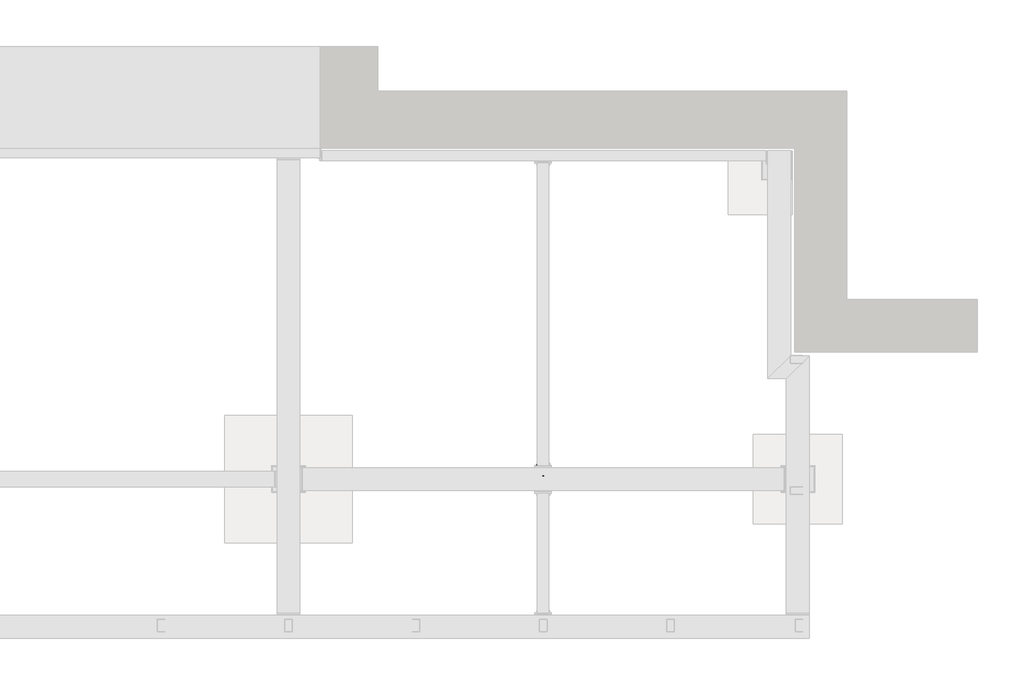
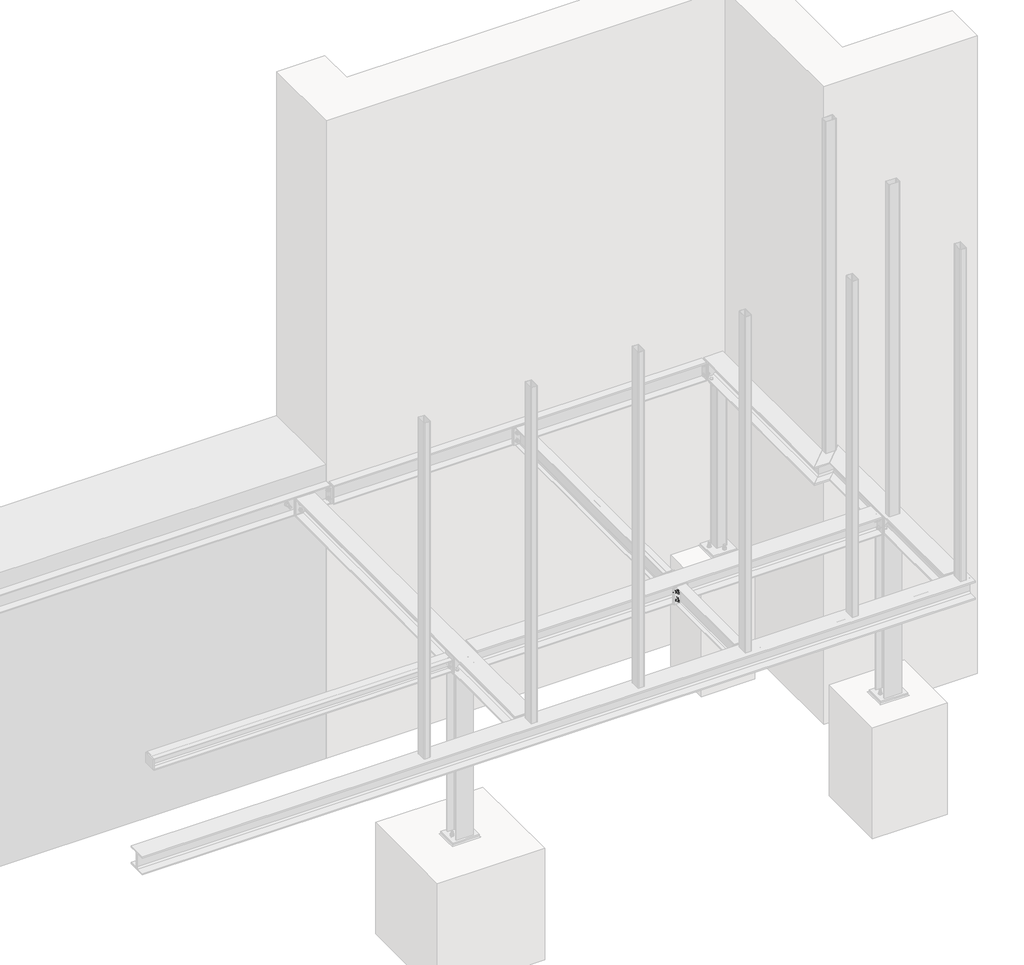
# One storey, part 28 of 31: 3 assemblies.
"""IFC4 building model written with IfcOpenShell, lengths in millimetres."""

from ifc_helpers import new_model, si_unit, point, frame, frame_2d, origin, place, context, project, spatial, polyline, circle_curve, ellipse_curve, trimmed, segment, composite_curve, outline, extrude, element, save
from ifc_brep_helpers import plane_surface, revolved_surface, advanced_brep

model = new_model("IFC4")

# Units and contexts
model_context = context("Model", 3, world=origin())
ifc_project = project(units=[si_unit("LENGTHUNIT", "METRE", prefix="MILLI")], contexts=[model_context])

# Site, building, storey
site = spatial("IfcSite", under=ifc_project)
building = spatial("IfcBuilding", under=site)
storey = spatial("IfcBuildingStorey", under=building, Name="Základy", Elevation=-1200.0)

# Assemblies
placement = place(None, origin())
element("IfcElementAssembly", 1, at=placement, inside=storey, context=model_context, shape_type="AdvancedBrep", body=[
    advanced_brep(
    [(15960.0, 2050.0, -160.0), (16140.0, 2230.0, -160.0), (15995.0, 2230.0, -160.0), (15815.0, 2050.0, -160.0), (15960.0, 2050.0, -174.0), (15815.0, 2050.0, -174.0), (16030.75, 2120.75, -174.0), (15885.75, 2120.75, -174.0), (16045.75, 2135.75, -189.0), (15900.75, 2135.75, -189.0), (16045.75, 2135.75, -311.0), (15900.75, 2135.75, -311.0), (16030.75, 2120.75, -326.0), (15885.75, 2120.75, -326.0), (15960.0, 2050.0, -326.0), (15815.0, 2050.0, -326.0), (15960.0, 2050.0, -340.0), (15815.0, 2050.0, -340.0), (16140.0, 2230.0, -340.0), (15995.0, 2230.0, -340.0), (16140.0, 2230.0, -326.0), (15995.0, 2230.0, -326.0), (16069.25, 2159.25, -326.0), (15924.25, 2159.25, -326.0), (16054.25, 2144.25, -311.0), (15909.25, 2144.25, -311.0), (16054.25, 2144.25, -189.0), (15909.25, 2144.25, -189.0), (16069.25, 2159.25, -174.0), (15924.25, 2159.25, -174.0), (16140.0, 2230.0, -174.0), (15995.0, 2230.0, -174.0)],
    [
        (0, 1),
        (1, 2),
        (2, 3),
        (3, 0),
        (4, 0),
        (3, 5),
        (5, 4),
        (6, 4),
        (5, 7),
        (7, 6),
        (8, 6, ellipse_curve(frame((16030.75, 2120.75, -189.0), z_axis=(0.7071067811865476, -0.7071067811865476, 0.0), x_axis=(-0.7071067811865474, -0.7071067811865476, 0.0)), 21.2132034, 15.0)),
        (7, 9, ellipse_curve(frame((15885.75, 2120.75, -189.0), z_axis=(-0.7071067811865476, 0.7071067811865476, 0.0), x_axis=(-0.7071067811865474, -0.7071067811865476, 0.0)), 21.2132034, 15.0)),
        (9, 8),
        (10, 8),
        (9, 11),
        (11, 10),
        (12, 10, ellipse_curve(frame((16030.75, 2120.75, -311.0), z_axis=(0.7071067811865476, -0.7071067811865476, 0.0), x_axis=(-0.7071067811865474, -0.7071067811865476, 0.0)), 21.2132034, 15.0)),
        (11, 13, ellipse_curve(frame((15885.75, 2120.75, -311.0), z_axis=(-0.7071067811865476, 0.7071067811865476, 0.0), x_axis=(-0.7071067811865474, -0.7071067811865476, 0.0)), 21.2132034, 15.0)),
        (13, 12),
        (14, 12),
        (13, 15),
        (15, 14),
        (16, 14),
        (15, 17),
        (17, 16),
        (18, 16),
        (17, 19),
        (19, 18),
        (20, 18),
        (19, 21),
        (21, 20),
        (22, 20),
        (21, 23),
        (23, 22),
        (24, 22, ellipse_curve(frame((16069.25, 2159.25, -311.0), z_axis=(0.7071067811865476, -0.7071067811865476, 0.0), x_axis=(-0.7071067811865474, -0.7071067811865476, 0.0)), 21.2132034, 15.0)),
        (23, 25, ellipse_curve(frame((15924.25, 2159.25, -311.0), z_axis=(-0.7071067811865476, 0.7071067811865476, 0.0), x_axis=(-0.7071067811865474, -0.7071067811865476, 0.0)), 21.2132034, 15.0)),
        (25, 24),
        (26, 24),
        (25, 27),
        (27, 26),
        (28, 26, ellipse_curve(frame((16069.25, 2159.25, -189.0), z_axis=(0.7071067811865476, -0.7071067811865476, 0.0), x_axis=(-0.7071067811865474, -0.7071067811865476, 0.0)), 21.2132034, 15.0)),
        (27, 29, ellipse_curve(frame((15924.25, 2159.25, -189.0), z_axis=(-0.7071067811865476, 0.7071067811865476, 0.0), x_axis=(-0.7071067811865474, -0.7071067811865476, 0.0)), 21.2132034, 15.0)),
        (29, 28),
        (30, 28),
        (29, 31),
        (31, 30),
        (1, 30),
        (31, 2),
    ],
    [
        plane_surface(frame((16150.0, 2230.0, -160.0), z_axis=(0.0, 0.0, 1.0), x_axis=(-1.0, 0.0, 0.0))),
        plane_surface(frame((16150.0, 2050.0, -160.0), z_axis=(0.0, -1.0, 0.0), x_axis=(-1.0, 0.0, 0.0))),
        plane_surface(frame((16150.0, 2050.0, -174.0), z_axis=(0.0, 0.0, -1.0), x_axis=(-1.0, 0.0, 0.0))),
        revolved_surface(polyline([(15870.750000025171, 2105.75, -189.0), (16045.75, 2105.75, -189.0)]), (15805.0, 2120.75, -189.0), (-1.0, 0.0, 0.0)),
        plane_surface(frame((16150.0, 2135.75, -189.0), z_axis=(0.0, -1.0, 0.0), x_axis=(-1.0, 0.0, 0.0))),
        revolved_surface(polyline([(15870.750000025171, 2105.75, -311.0), (16045.75, 2105.75, -311.0)]), (15805.0, 2120.75, -311.0), (-1.0, 0.0, 0.0)),
        plane_surface(frame((16150.0, 2120.75, -326.0), z_axis=(0.0, 0.0, 1.0), x_axis=(-1.0, 0.0, 0.0))),
        plane_surface(frame((16150.0, 2050.0, -326.0), z_axis=(0.0, -1.0, 0.0), x_axis=(-1.0, 0.0, 0.0))),
        plane_surface(frame((16150.0, 2050.0, -340.0), z_axis=(0.0, 0.0, -1.0), x_axis=(-1.0, 0.0, 0.0))),
        plane_surface(frame((16150.0, 2230.0, -340.0), z_axis=(0.0, 1.0, 0.0), x_axis=(-1.0, 0.0, 0.0))),
        plane_surface(frame((16150.0, 2230.0, -326.0), z_axis=(0.0, 0.0, 1.0), x_axis=(-1.0, 0.0, 0.0))),
        revolved_surface(polyline([(15909.25, 2144.25, -311.0), (16084.249999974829, 2144.25, -311.0)]), (15805.0, 2159.25, -311.0), (-1.0, 0.0, 0.0)),
        plane_surface(frame((16150.0, 2144.25, -311.0), z_axis=(0.0, 1.0, 0.0), x_axis=(-1.0, 0.0, 0.0))),
        revolved_surface(polyline([(15909.25, 2144.25, -189.0), (16084.249999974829, 2144.25, -189.0)]), (15805.0, 2159.25, -189.0), (-1.0, 0.0, 0.0)),
        plane_surface(frame((16150.0, 2159.25, -174.0), z_axis=(0.0, 0.0, -1.0), x_axis=(-1.0, 0.0, 0.0))),
        plane_surface(frame((16150.0, 2230.0, -174.0), z_axis=(0.0, 1.0, 0.0), x_axis=(-1.0, 0.0, 0.0))),
        plane_surface(frame((16150.0, 2240.0, -160.0), z_axis=(0.7071067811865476, -0.7071067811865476, 0.0), x_axis=(0.7071067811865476, 0.7071067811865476, 0.0))),
        plane_surface(frame((15805.0, 2040.0, -160.0), z_axis=(-0.7071067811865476, 0.7071067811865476, 0.0), x_axis=(0.7071067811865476, 0.7071067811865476, 0.0))),
    ],
    [
        (0, [[1, 2, 3, 4]]),
        (1, [[5, -4, 6, 7]]),
        (2, [[8, -7, 9, 10]]),
        (3, [[11, -10, 12, 13]]),
        (4, [[14, -13, 15, 16]]),
        (5, [[17, -16, 18, 19]]),
        (6, [[20, -19, 21, 22]]),
        (7, [[23, -22, 24, 25]]),
        (8, [[26, -25, 27, 28]]),
        (9, [[29, -28, 30, 31]]),
        (10, [[32, -31, 33, 34]]),
        (11, [[35, -34, 36, 37]]),
        (12, [[38, -37, 39, 40]]),
        (13, [[41, -40, 42, 43]]),
        (14, [[44, -43, 45, 46]]),
        (15, [[47, -46, 48, -2]]),
        (16, [[-1, -5, -8, -11, -14, -17, -20, -23, -26, -29, -32, -35, -38, -41, -44, -47]]),
        (17, [[-3, -48, -45, -42, -39, -36, -33, -30, -27, -24, -21, -18, -15, -12, -9, -6]]),
    ],
),
])
element("IfcElementAssembly", 2, at=placement, inside=storey, context=model_context, shape_type="SweptSolid", body=[
    extrude(outline(composite_curve([segment(polyline([(1170.0, -160.0), (1350.0, -160.0), (1350.0, -174.0), (1279.25, -174.0)]), True, "CONTINUOUS"), segment(trimmed(circle_curve(frame_2d((1279.25, -189.0)), 15.0), [point((1279.25, -174.0))], [point((1264.25, -189.0))], True, "CARTESIAN"), True, "CONTINUOUS"), segment(polyline([(1264.25, -189.0), (1264.25, -311.0)]), True, "CONTINUOUS"), segment(trimmed(circle_curve(frame_2d((1279.25, -311.0)), 15.0), [point((1264.25, -311.0))], [point((1279.25, -326.0))], True, "CARTESIAN"), True, "CONTINUOUS"), segment(polyline([(1279.25, -326.0), (1350.0, -326.0), (1350.0, -340.0), (1170.0, -340.0), (1170.0, -326.0), (1240.75, -326.0)]), True, "CONTINUOUS"), segment(trimmed(circle_curve(frame_2d((1240.75, -311.0)), 15.0), [point((1240.75, -326.0))], [point((1255.75, -311.0))], True, "CARTESIAN"), True, "CONTINUOUS"), segment(polyline([(1255.75, -311.0), (1255.75, -189.0)]), True, "CONTINUOUS"), segment(trimmed(circle_curve(frame_2d((1240.75, -189.0)), 15.0), [point((1255.75, -189.0))], [point((1240.75, -174.0))], True, "CARTESIAN"), True, "CONTINUOUS"), segment(polyline([(1240.75, -174.0), (1170.0, -174.0), (1170.0, -160.0)]), True, "CONTINUOUS")], self_intersect=False)), frame((12160.0, 0.0, 0.0), z_axis=(1.0, 0.0, 0.0), x_axis=(0.0, 1.0, 0.0)), (0.0, 0.0, 1.0), 3780.0),
    extrude(outline(polyline([(12150.0, 1170.0), (12150.0, 1350.0), (12160.0, 1350.0), (12160.0, 1170.0), (12150.0, 1170.0)])), frame((0.0, 0.0, -326.0), z_axis=(0.0, 0.0, 1.0), x_axis=(1.0, 0.0, 0.0)), (0.0, 0.0, 1.0), 152.0),
    extrude(outline(polyline([(15940.0, 1170.0), (15940.0, 1350.0), (15950.0, 1350.0), (15950.0, 1170.0), (15940.0, 1170.0)])), frame((0.0, 0.0, -326.0), z_axis=(0.0, 0.0, 1.0), x_axis=(1.0, 0.0, 0.0)), (0.0, 0.0, 1.0), 152.0),
    extrude(outline(composite_curve([segment(polyline([(1170.0, -174.0), (1235.75, -174.0)]), True, "CONTINUOUS"), segment(trimmed(circle_curve(frame_2d((1255.75, -174.0)), 20.0), [point((1235.75, -174.0))], [point((1255.75, -194.0))], True, "CARTESIAN"), True, "CONTINUOUS"), segment(polyline([(1255.75, -194.0), (1255.75, -306.0)]), True, "CONTINUOUS"), segment(trimmed(circle_curve(frame_2d((1255.75, -326.0)), 20.0), [point((1255.75, -306.0))], [point((1235.75, -326.0))], True, "CARTESIAN"), True, "CONTINUOUS"), segment(polyline([(1235.75, -326.0), (1170.0, -326.0), (1170.0, -174.0)]), True, "CONTINUOUS")], self_intersect=False)), frame((14046.0, 0.0, 0.0), z_axis=(1.0, 0.0, 0.0), x_axis=(0.0, 1.0, 0.0)), (0.0, 0.0, 1.0), 8.0),
    extrude(outline(polyline([(13985.0, 1170.0), (14115.0, 1170.0), (14115.0, 1160.0), (13985.0, 1160.0), (13985.0, 1170.0)])), frame((0.0, 0.0, -332.0), z_axis=(0.0, 0.0, 1.0), x_axis=(1.0, 0.0, 0.0)), (0.0, 0.0, 1.0), 164.0),
    extrude(outline(composite_curve([segment(polyline([(1350.0, -174.0), (1350.0, -326.0), (1284.25, -326.0)]), True, "CONTINUOUS"), segment(trimmed(circle_curve(frame_2d((1264.25, -326.0)), 20.0), [point((1284.25, -326.0))], [point((1264.25, -306.0))], True, "CARTESIAN"), True, "CONTINUOUS"), segment(polyline([(1264.25, -306.0), (1264.25, -194.0)]), True, "CONTINUOUS"), segment(trimmed(circle_curve(frame_2d((1264.25, -174.0)), 20.0), [point((1264.25, -194.0))], [point((1284.25, -174.0))], True, "CARTESIAN"), True, "CONTINUOUS"), segment(polyline([(1284.25, -174.0), (1350.0, -174.0)]), True, "CONTINUOUS")], self_intersect=False)), frame((14046.0, 0.0, 0.0), z_axis=(1.0, 0.0, 0.0), x_axis=(0.0, 1.0, 0.0)), (0.0, 0.0, 1.0), 8.0),
    extrude(outline(polyline([(13985.0, 1360.0), (14115.0, 1360.0), (14115.0, 1350.0), (13985.0, 1350.0), (13985.0, 1360.0)])), frame((0.0, 0.0, -332.0), z_axis=(0.0, 0.0, 1.0), x_axis=(1.0, 0.0, 0.0)), (0.0, 0.0, 1.0), 164.0),
    extrude(outline(composite_curve([segment(trimmed(circle_curve(frame_2d((-290.0, 14015.0)), 9.0), [point((-290.0, 14024.0))], [point((-290.0, 14006.0))], False, "CARTESIAN"), True, "CONTINUOUS"), segment(trimmed(circle_curve(frame_2d((-290.0, 14015.0)), 9.0), [point((-290.0, 14006.0))], [point((-290.0, 14024.0))], False, "CARTESIAN"), True, "CONTINUOUS")], self_intersect=False)), frame((0.0, 1159.9, 0.0), z_axis=(0.0, 1.0, 0.0), x_axis=(0.0, 0.0, 1.0)), (0.0, 0.0, 1.0), 10.0),
    extrude(outline(polyline([(-290.0, 14028.8564065), (-278.0, 14021.9282032), (-278.0, 14008.0717968), (-290.0, 14001.1435935), (-302.0, 14008.0717968), (-302.0, 14021.9282032), (-290.0, 14028.8564065)])), frame((0.0, 1173.0, 0.0), z_axis=(0.0, 1.0, 0.0), x_axis=(0.0, 0.0, 1.0)), (0.0, 0.0, 1.0), 10.0),
    extrude(outline(composite_curve([segment(trimmed(circle_curve(frame_2d((-290.0, 14015.0)), 8.0), [point((-290.0, 14023.0))], [point((-290.0, 14007.0))], False, "CARTESIAN"), True, "CONTINUOUS"), segment(trimmed(circle_curve(frame_2d((-290.0, 14015.0)), 8.0), [point((-290.0, 14007.0))], [point((-290.0, 14023.0))], False, "CARTESIAN"), True, "CONTINUOUS")], self_intersect=False)), frame((0.0, 1123.0, 0.0), z_axis=(0.0, 1.0, 0.0), x_axis=(0.0, 0.0, 1.0)), (0.0, 0.0, 1.0), 50.0),
    extrude(outline(composite_curve([segment(trimmed(circle_curve(frame_2d((-290.0, 14015.0)), 15.0), [point((-290.0, 14030.0))], [point((-290.0, 14000.0))], False, "CARTESIAN"), True, "CONTINUOUS"), segment(trimmed(circle_curve(frame_2d((-290.0, 14015.0)), 15.0), [point((-290.0, 14000.0))], [point((-290.0, 14030.0))], False, "CARTESIAN"), True, "CONTINUOUS")], self_intersect=False)), frame((0.0, 1170.0, 0.0), z_axis=(0.0, 1.0, 0.0), x_axis=(0.0, 0.0, 1.0)), (0.0, 0.0, 1.0), 3.0),
    extrude(outline(composite_curve([segment(trimmed(circle_curve(frame_2d((-290.0, 14015.0)), 15.0), [point((-290.0, 14030.0))], [point((-290.0, 14000.0))], False, "CARTESIAN"), True, "CONTINUOUS"), segment(trimmed(circle_curve(frame_2d((-290.0, 14015.0)), 15.0), [point((-290.0, 14000.0))], [point((-290.0, 14030.0))], False, "CARTESIAN"), True, "CONTINUOUS")], self_intersect=False)), frame((0.0, 1147.0, 0.0), z_axis=(0.0, 1.0, 0.0), x_axis=(0.0, 0.0, 1.0)), (0.0, 0.0, 1.0), 3.0),
    extrude(outline(polyline([(-290.0, 14030.4441197), (-276.625, 14022.7220599), (-276.625, 14007.2779401), (-290.0, 13999.5558803), (-303.375, 14007.2779401), (-303.375, 14022.7220599), (-290.0, 14030.4441197)])), frame((0.0, 1134.0, 0.0), z_axis=(0.0, 1.0, 0.0), x_axis=(0.0, 0.0, 1.0)), (0.0, 0.0, 1.0), 13.0),
    extrude(outline(composite_curve([segment(trimmed(circle_curve(frame_2d((-290.0, 14015.0)), 9.0), [point((-290.0, 14024.0))], [point((-290.0, 14006.0))], False, "CARTESIAN"), True, "CONTINUOUS"), segment(trimmed(circle_curve(frame_2d((-290.0, 14015.0)), 9.0), [point((-290.0, 14006.0))], [point((-290.0, 14024.0))], False, "CARTESIAN"), True, "CONTINUOUS")], self_intersect=False)), frame((0.0, 1150.0, 0.0), z_axis=(0.0, 1.0, 0.0), x_axis=(0.0, 0.0, 1.0)), (0.0, 0.0, 1.0), 10.1),
    extrude(outline(composite_curve([segment(trimmed(circle_curve(frame_2d((-290.0, 14085.0)), 9.0), [point((-290.0, 14094.0))], [point((-290.0, 14076.0))], False, "CARTESIAN"), True, "CONTINUOUS"), segment(trimmed(circle_curve(frame_2d((-290.0, 14085.0)), 9.0), [point((-290.0, 14076.0))], [point((-290.0, 14094.0))], False, "CARTESIAN"), True, "CONTINUOUS")], self_intersect=False)), frame((0.0, 1159.9, 0.0), z_axis=(0.0, 1.0, 0.0), x_axis=(0.0, 0.0, 1.0)), (0.0, 0.0, 1.0), 10.0),
    extrude(outline(polyline([(-290.0, 14098.8564065), (-278.0, 14091.9282032), (-278.0, 14078.0717968), (-290.0, 14071.1435935), (-302.0, 14078.0717968), (-302.0, 14091.9282032), (-290.0, 14098.8564065)])), frame((0.0, 1173.0, 0.0), z_axis=(0.0, 1.0, 0.0), x_axis=(0.0, 0.0, 1.0)), (0.0, 0.0, 1.0), 10.0),
    extrude(outline(composite_curve([segment(trimmed(circle_curve(frame_2d((-290.0, 14085.0)), 8.0), [point((-290.0, 14093.0))], [point((-290.0, 14077.0))], False, "CARTESIAN"), True, "CONTINUOUS"), segment(trimmed(circle_curve(frame_2d((-290.0, 14085.0)), 8.0), [point((-290.0, 14077.0))], [point((-290.0, 14093.0))], False, "CARTESIAN"), True, "CONTINUOUS")], self_intersect=False)), frame((0.0, 1123.0, 0.0), z_axis=(0.0, 1.0, 0.0), x_axis=(0.0, 0.0, 1.0)), (0.0, 0.0, 1.0), 50.0),
    extrude(outline(composite_curve([segment(trimmed(circle_curve(frame_2d((-290.0, 14085.0)), 15.0), [point((-290.0, 14100.0))], [point((-290.0, 14070.0))], False, "CARTESIAN"), True, "CONTINUOUS"), segment(trimmed(circle_curve(frame_2d((-290.0, 14085.0)), 15.0), [point((-290.0, 14070.0))], [point((-290.0, 14100.0))], False, "CARTESIAN"), True, "CONTINUOUS")], self_intersect=False)), frame((0.0, 1170.0, 0.0), z_axis=(0.0, 1.0, 0.0), x_axis=(0.0, 0.0, 1.0)), (0.0, 0.0, 1.0), 3.0),
    extrude(outline(composite_curve([segment(trimmed(circle_curve(frame_2d((-290.0, 14085.0)), 15.0), [point((-290.0, 14100.0))], [point((-290.0, 14070.0))], False, "CARTESIAN"), True, "CONTINUOUS"), segment(trimmed(circle_curve(frame_2d((-290.0, 14085.0)), 15.0), [point((-290.0, 14070.0))], [point((-290.0, 14100.0))], False, "CARTESIAN"), True, "CONTINUOUS")], self_intersect=False)), frame((0.0, 1147.0, 0.0), z_axis=(0.0, 1.0, 0.0), x_axis=(0.0, 0.0, 1.0)), (0.0, 0.0, 1.0), 3.0),
    extrude(outline(polyline([(-290.0, 14100.4441197), (-276.625, 14092.7220599), (-276.625, 14077.2779401), (-290.0, 14069.5558803), (-303.375, 14077.2779401), (-303.375, 14092.7220599), (-290.0, 14100.4441197)])), frame((0.0, 1134.0, 0.0), z_axis=(0.0, 1.0, 0.0), x_axis=(0.0, 0.0, 1.0)), (0.0, 0.0, 1.0), 13.0),
    extrude(outline(composite_curve([segment(trimmed(circle_curve(frame_2d((-290.0, 14085.0)), 9.0), [point((-290.0, 14094.0))], [point((-290.0, 14076.0))], False, "CARTESIAN"), True, "CONTINUOUS"), segment(trimmed(circle_curve(frame_2d((-290.0, 14085.0)), 9.0), [point((-290.0, 14076.0))], [point((-290.0, 14094.0))], False, "CARTESIAN"), True, "CONTINUOUS")], self_intersect=False)), frame((0.0, 1150.0, 0.0), z_axis=(0.0, 1.0, 0.0), x_axis=(0.0, 0.0, 1.0)), (0.0, 0.0, 1.0), 10.1),
    extrude(outline(composite_curve([segment(trimmed(circle_curve(frame_2d((-210.0, 14015.0)), 9.0), [point((-210.0, 14024.0))], [point((-210.0, 14006.0))], False, "CARTESIAN"), True, "CONTINUOUS"), segment(trimmed(circle_curve(frame_2d((-210.0, 14015.0)), 9.0), [point((-210.0, 14006.0))], [point((-210.0, 14024.0))], False, "CARTESIAN"), True, "CONTINUOUS")], self_intersect=False)), frame((0.0, 1159.9, 0.0), z_axis=(0.0, 1.0, 0.0), x_axis=(0.0, 0.0, 1.0)), (0.0, 0.0, 1.0), 10.0),
    extrude(outline(polyline([(-210.0, 14028.8564065), (-198.0, 14021.9282032), (-198.0, 14008.0717968), (-210.0, 14001.1435935), (-222.0, 14008.0717968), (-222.0, 14021.9282032), (-210.0, 14028.8564065)])), frame((0.0, 1173.0, 0.0), z_axis=(0.0, 1.0, 0.0), x_axis=(0.0, 0.0, 1.0)), (0.0, 0.0, 1.0), 10.0),
    extrude(outline(composite_curve([segment(trimmed(circle_curve(frame_2d((-210.0, 14015.0)), 8.0), [point((-210.0, 14023.0))], [point((-210.0, 14007.0))], False, "CARTESIAN"), True, "CONTINUOUS"), segment(trimmed(circle_curve(frame_2d((-210.0, 14015.0)), 8.0), [point((-210.0, 14007.0))], [point((-210.0, 14023.0))], False, "CARTESIAN"), True, "CONTINUOUS")], self_intersect=False)), frame((0.0, 1123.0, 0.0), z_axis=(0.0, 1.0, 0.0), x_axis=(0.0, 0.0, 1.0)), (0.0, 0.0, 1.0), 50.0),
    extrude(outline(composite_curve([segment(trimmed(circle_curve(frame_2d((-210.0, 14015.0)), 15.0), [point((-210.0, 14030.0))], [point((-210.0, 14000.0))], False, "CARTESIAN"), True, "CONTINUOUS"), segment(trimmed(circle_curve(frame_2d((-210.0, 14015.0)), 15.0), [point((-210.0, 14000.0))], [point((-210.0, 14030.0))], False, "CARTESIAN"), True, "CONTINUOUS")], self_intersect=False)), frame((0.0, 1170.0, 0.0), z_axis=(0.0, 1.0, 0.0), x_axis=(0.0, 0.0, 1.0)), (0.0, 0.0, 1.0), 3.0),
    extrude(outline(composite_curve([segment(trimmed(circle_curve(frame_2d((-210.0, 14015.0)), 15.0), [point((-210.0, 14030.0))], [point((-210.0, 14000.0))], False, "CARTESIAN"), True, "CONTINUOUS"), segment(trimmed(circle_curve(frame_2d((-210.0, 14015.0)), 15.0), [point((-210.0, 14000.0))], [point((-210.0, 14030.0))], False, "CARTESIAN"), True, "CONTINUOUS")], self_intersect=False)), frame((0.0, 1147.0, 0.0), z_axis=(0.0, 1.0, 0.0), x_axis=(0.0, 0.0, 1.0)), (0.0, 0.0, 1.0), 3.0),
    extrude(outline(polyline([(-210.0, 14030.4441197), (-196.625, 14022.7220599), (-196.625, 14007.2779401), (-210.0, 13999.5558803), (-223.375, 14007.2779401), (-223.375, 14022.7220599), (-210.0, 14030.4441197)])), frame((0.0, 1134.0, 0.0), z_axis=(0.0, 1.0, 0.0), x_axis=(0.0, 0.0, 1.0)), (0.0, 0.0, 1.0), 13.0),
    extrude(outline(composite_curve([segment(trimmed(circle_curve(frame_2d((-210.0, 14015.0)), 9.0), [point((-210.0, 14024.0))], [point((-210.0, 14006.0))], False, "CARTESIAN"), True, "CONTINUOUS"), segment(trimmed(circle_curve(frame_2d((-210.0, 14015.0)), 9.0), [point((-210.0, 14006.0))], [point((-210.0, 14024.0))], False, "CARTESIAN"), True, "CONTINUOUS")], self_intersect=False)), frame((0.0, 1150.0, 0.0), z_axis=(0.0, 1.0, 0.0), x_axis=(0.0, 0.0, 1.0)), (0.0, 0.0, 1.0), 10.1),
    extrude(outline(composite_curve([segment(trimmed(circle_curve(frame_2d((-210.0, 14085.0)), 9.0), [point((-210.0, 14094.0))], [point((-210.0, 14076.0))], False, "CARTESIAN"), True, "CONTINUOUS"), segment(trimmed(circle_curve(frame_2d((-210.0, 14085.0)), 9.0), [point((-210.0, 14076.0))], [point((-210.0, 14094.0))], False, "CARTESIAN"), True, "CONTINUOUS")], self_intersect=False)), frame((0.0, 1159.9, 0.0), z_axis=(0.0, 1.0, 0.0), x_axis=(0.0, 0.0, 1.0)), (0.0, 0.0, 1.0), 10.0),
    extrude(outline(polyline([(-210.0, 14098.8564065), (-198.0, 14091.9282032), (-198.0, 14078.0717968), (-210.0, 14071.1435935), (-222.0, 14078.0717968), (-222.0, 14091.9282032), (-210.0, 14098.8564065)])), frame((0.0, 1173.0, 0.0), z_axis=(0.0, 1.0, 0.0), x_axis=(0.0, 0.0, 1.0)), (0.0, 0.0, 1.0), 10.0),
    extrude(outline(composite_curve([segment(trimmed(circle_curve(frame_2d((-210.0, 14085.0)), 8.0), [point((-210.0, 14093.0))], [point((-210.0, 14077.0))], False, "CARTESIAN"), True, "CONTINUOUS"), segment(trimmed(circle_curve(frame_2d((-210.0, 14085.0)), 8.0), [point((-210.0, 14077.0))], [point((-210.0, 14093.0))], False, "CARTESIAN"), True, "CONTINUOUS")], self_intersect=False)), frame((0.0, 1123.0, 0.0), z_axis=(0.0, 1.0, 0.0), x_axis=(0.0, 0.0, 1.0)), (0.0, 0.0, 1.0), 50.0),
    extrude(outline(composite_curve([segment(trimmed(circle_curve(frame_2d((-210.0, 14085.0)), 15.0), [point((-210.0, 14100.0))], [point((-210.0, 14070.0))], False, "CARTESIAN"), True, "CONTINUOUS"), segment(trimmed(circle_curve(frame_2d((-210.0, 14085.0)), 15.0), [point((-210.0, 14070.0))], [point((-210.0, 14100.0))], False, "CARTESIAN"), True, "CONTINUOUS")], self_intersect=False)), frame((0.0, 1170.0, 0.0), z_axis=(0.0, 1.0, 0.0), x_axis=(0.0, 0.0, 1.0)), (0.0, 0.0, 1.0), 3.0),
    extrude(outline(composite_curve([segment(trimmed(circle_curve(frame_2d((-210.0, 14085.0)), 15.0), [point((-210.0, 14100.0))], [point((-210.0, 14070.0))], False, "CARTESIAN"), True, "CONTINUOUS"), segment(trimmed(circle_curve(frame_2d((-210.0, 14085.0)), 15.0), [point((-210.0, 14070.0))], [point((-210.0, 14100.0))], False, "CARTESIAN"), True, "CONTINUOUS")], self_intersect=False)), frame((0.0, 1147.0, 0.0), z_axis=(0.0, 1.0, 0.0), x_axis=(0.0, 0.0, 1.0)), (0.0, 0.0, 1.0), 3.0),
    extrude(outline(polyline([(-210.0, 14100.4441197), (-196.625, 14092.7220599), (-196.625, 14077.2779401), (-210.0, 14069.5558803), (-223.375, 14077.2779401), (-223.375, 14092.7220599), (-210.0, 14100.4441197)])), frame((0.0, 1134.0, 0.0), z_axis=(0.0, 1.0, 0.0), x_axis=(0.0, 0.0, 1.0)), (0.0, 0.0, 1.0), 13.0),
    extrude(outline(composite_curve([segment(trimmed(circle_curve(frame_2d((-210.0, 14085.0)), 9.0), [point((-210.0, 14094.0))], [point((-210.0, 14076.0))], False, "CARTESIAN"), True, "CONTINUOUS"), segment(trimmed(circle_curve(frame_2d((-210.0, 14085.0)), 9.0), [point((-210.0, 14076.0))], [point((-210.0, 14094.0))], False, "CARTESIAN"), True, "CONTINUOUS")], self_intersect=False)), frame((0.0, 1150.0, 0.0), z_axis=(0.0, 1.0, 0.0), x_axis=(0.0, 0.0, 1.0)), (0.0, 0.0, 1.0), 10.1),
    extrude(outline(composite_curve([segment(trimmed(circle_curve(frame_2d((-290.0, 14015.0)), 9.0), [point((-290.0, 14024.0))], [point((-290.0, 14006.0))], False, "CARTESIAN"), True, "CONTINUOUS"), segment(trimmed(circle_curve(frame_2d((-290.0, 14015.0)), 9.0), [point((-290.0, 14006.0))], [point((-290.0, 14024.0))], False, "CARTESIAN"), True, "CONTINUOUS")], self_intersect=False)), frame((0.0, 1350.1, 0.0), z_axis=(0.0, 1.0, 0.0), x_axis=(0.0, 0.0, 1.0)), (0.0, 0.0, 1.0), 10.0),
    extrude(outline(polyline([(-290.0, 14028.8564065), (-278.0, 14021.9282032), (-278.0, 14008.0717968), (-290.0, 14001.1435935), (-302.0, 14008.0717968), (-302.0, 14021.9282032), (-290.0, 14028.8564065)])), frame((0.0, 1337.0, 0.0), z_axis=(0.0, 1.0, 0.0), x_axis=(0.0, 0.0, 1.0)), (0.0, 0.0, 1.0), 10.0),
    extrude(outline(composite_curve([segment(trimmed(circle_curve(frame_2d((-290.0, 14015.0)), 8.0), [point((-290.0, 14023.0))], [point((-290.0, 14007.0))], False, "CARTESIAN"), True, "CONTINUOUS"), segment(trimmed(circle_curve(frame_2d((-290.0, 14015.0)), 8.0), [point((-290.0, 14007.0))], [point((-290.0, 14023.0))], False, "CARTESIAN"), True, "CONTINUOUS")], self_intersect=False)), frame((0.0, 1347.0, 0.0), z_axis=(0.0, 1.0, 0.0), x_axis=(0.0, 0.0, 1.0)), (0.0, 0.0, 1.0), 50.0),
    extrude(outline(composite_curve([segment(trimmed(circle_curve(frame_2d((-290.0, 14015.0)), 15.0), [point((-290.0, 14030.0))], [point((-290.0, 14000.0))], False, "CARTESIAN"), True, "CONTINUOUS"), segment(trimmed(circle_curve(frame_2d((-290.0, 14015.0)), 15.0), [point((-290.0, 14000.0))], [point((-290.0, 14030.0))], False, "CARTESIAN"), True, "CONTINUOUS")], self_intersect=False)), frame((0.0, 1347.0, 0.0), z_axis=(0.0, 1.0, 0.0), x_axis=(0.0, 0.0, 1.0)), (0.0, 0.0, 1.0), 3.0),
    extrude(outline(composite_curve([segment(trimmed(circle_curve(frame_2d((-290.0, 14015.0)), 15.0), [point((-290.0, 14030.0))], [point((-290.0, 14000.0))], False, "CARTESIAN"), True, "CONTINUOUS"), segment(trimmed(circle_curve(frame_2d((-290.0, 14015.0)), 15.0), [point((-290.0, 14000.0))], [point((-290.0, 14030.0))], False, "CARTESIAN"), True, "CONTINUOUS")], self_intersect=False)), frame((0.0, 1370.0, 0.0), z_axis=(0.0, 1.0, 0.0), x_axis=(0.0, 0.0, 1.0)), (0.0, 0.0, 1.0), 3.0),
    extrude(outline(polyline([(-290.0, 14030.4441197), (-276.625, 14022.7220599), (-276.625, 14007.2779401), (-290.0, 13999.5558803), (-303.375, 14007.2779401), (-303.375, 14022.7220599), (-290.0, 14030.4441197)])), frame((0.0, 1373.0, 0.0), z_axis=(0.0, 1.0, 0.0), x_axis=(0.0, 0.0, 1.0)), (0.0, 0.0, 1.0), 13.0),
    extrude(outline(composite_curve([segment(trimmed(circle_curve(frame_2d((-290.0, 14015.0)), 9.0), [point((-290.0, 14024.0))], [point((-290.0, 14006.0))], False, "CARTESIAN"), True, "CONTINUOUS"), segment(trimmed(circle_curve(frame_2d((-290.0, 14015.0)), 9.0), [point((-290.0, 14006.0))], [point((-290.0, 14024.0))], False, "CARTESIAN"), True, "CONTINUOUS")], self_intersect=False)), frame((0.0, 1359.9, 0.0), z_axis=(0.0, 1.0, 0.0), x_axis=(0.0, 0.0, 1.0)), (0.0, 0.0, 1.0), 10.1),
    extrude(outline(composite_curve([segment(trimmed(circle_curve(frame_2d((-290.0, 14085.0)), 9.0), [point((-290.0, 14094.0))], [point((-290.0, 14076.0))], False, "CARTESIAN"), True, "CONTINUOUS"), segment(trimmed(circle_curve(frame_2d((-290.0, 14085.0)), 9.0), [point((-290.0, 14076.0))], [point((-290.0, 14094.0))], False, "CARTESIAN"), True, "CONTINUOUS")], self_intersect=False)), frame((0.0, 1350.1, 0.0), z_axis=(0.0, 1.0, 0.0), x_axis=(0.0, 0.0, 1.0)), (0.0, 0.0, 1.0), 10.0),
    extrude(outline(polyline([(-290.0, 14098.8564065), (-278.0, 14091.9282032), (-278.0, 14078.0717968), (-290.0, 14071.1435935), (-302.0, 14078.0717968), (-302.0, 14091.9282032), (-290.0, 14098.8564065)])), frame((0.0, 1337.0, 0.0), z_axis=(0.0, 1.0, 0.0), x_axis=(0.0, 0.0, 1.0)), (0.0, 0.0, 1.0), 10.0),
    extrude(outline(composite_curve([segment(trimmed(circle_curve(frame_2d((-290.0, 14085.0)), 8.0), [point((-290.0, 14093.0))], [point((-290.0, 14077.0))], False, "CARTESIAN"), True, "CONTINUOUS"), segment(trimmed(circle_curve(frame_2d((-290.0, 14085.0)), 8.0), [point((-290.0, 14077.0))], [point((-290.0, 14093.0))], False, "CARTESIAN"), True, "CONTINUOUS")], self_intersect=False)), frame((0.0, 1347.0, 0.0), z_axis=(0.0, 1.0, 0.0), x_axis=(0.0, 0.0, 1.0)), (0.0, 0.0, 1.0), 50.0),
    extrude(outline(composite_curve([segment(trimmed(circle_curve(frame_2d((-290.0, 14085.0)), 15.0), [point((-290.0, 14100.0))], [point((-290.0, 14070.0))], False, "CARTESIAN"), True, "CONTINUOUS"), segment(trimmed(circle_curve(frame_2d((-290.0, 14085.0)), 15.0), [point((-290.0, 14070.0))], [point((-290.0, 14100.0))], False, "CARTESIAN"), True, "CONTINUOUS")], self_intersect=False)), frame((0.0, 1347.0, 0.0), z_axis=(0.0, 1.0, 0.0), x_axis=(0.0, 0.0, 1.0)), (0.0, 0.0, 1.0), 3.0),
    extrude(outline(composite_curve([segment(trimmed(circle_curve(frame_2d((-290.0, 14085.0)), 15.0), [point((-290.0, 14100.0))], [point((-290.0, 14070.0))], False, "CARTESIAN"), True, "CONTINUOUS"), segment(trimmed(circle_curve(frame_2d((-290.0, 14085.0)), 15.0), [point((-290.0, 14070.0))], [point((-290.0, 14100.0))], False, "CARTESIAN"), True, "CONTINUOUS")], self_intersect=False)), frame((0.0, 1370.0, 0.0), z_axis=(0.0, 1.0, 0.0), x_axis=(0.0, 0.0, 1.0)), (0.0, 0.0, 1.0), 3.0),
    extrude(outline(polyline([(-290.0, 14100.4441197), (-276.625, 14092.7220599), (-276.625, 14077.2779401), (-290.0, 14069.5558803), (-303.375, 14077.2779401), (-303.375, 14092.7220599), (-290.0, 14100.4441197)])), frame((0.0, 1373.0, 0.0), z_axis=(0.0, 1.0, 0.0), x_axis=(0.0, 0.0, 1.0)), (0.0, 0.0, 1.0), 13.0),
    extrude(outline(composite_curve([segment(trimmed(circle_curve(frame_2d((-290.0, 14085.0)), 9.0), [point((-290.0, 14094.0))], [point((-290.0, 14076.0))], False, "CARTESIAN"), True, "CONTINUOUS"), segment(trimmed(circle_curve(frame_2d((-290.0, 14085.0)), 9.0), [point((-290.0, 14076.0))], [point((-290.0, 14094.0))], False, "CARTESIAN"), True, "CONTINUOUS")], self_intersect=False)), frame((0.0, 1359.9, 0.0), z_axis=(0.0, 1.0, 0.0), x_axis=(0.0, 0.0, 1.0)), (0.0, 0.0, 1.0), 10.1),
    extrude(outline(composite_curve([segment(trimmed(circle_curve(frame_2d((-210.0, 14015.0)), 9.0), [point((-210.0, 14024.0))], [point((-210.0, 14006.0))], False, "CARTESIAN"), True, "CONTINUOUS"), segment(trimmed(circle_curve(frame_2d((-210.0, 14015.0)), 9.0), [point((-210.0, 14006.0))], [point((-210.0, 14024.0))], False, "CARTESIAN"), True, "CONTINUOUS")], self_intersect=False)), frame((0.0, 1350.1, 0.0), z_axis=(0.0, 1.0, 0.0), x_axis=(0.0, 0.0, 1.0)), (0.0, 0.0, 1.0), 10.0),
    extrude(outline(polyline([(-210.0, 14028.8564065), (-198.0, 14021.9282032), (-198.0, 14008.0717968), (-210.0, 14001.1435935), (-222.0, 14008.0717968), (-222.0, 14021.9282032), (-210.0, 14028.8564065)])), frame((0.0, 1337.0, 0.0), z_axis=(0.0, 1.0, 0.0), x_axis=(0.0, 0.0, 1.0)), (0.0, 0.0, 1.0), 10.0),
    extrude(outline(composite_curve([segment(trimmed(circle_curve(frame_2d((-210.0, 14015.0)), 8.0), [point((-210.0, 14023.0))], [point((-210.0, 14007.0))], False, "CARTESIAN"), True, "CONTINUOUS"), segment(trimmed(circle_curve(frame_2d((-210.0, 14015.0)), 8.0), [point((-210.0, 14007.0))], [point((-210.0, 14023.0))], False, "CARTESIAN"), True, "CONTINUOUS")], self_intersect=False)), frame((0.0, 1347.0, 0.0), z_axis=(0.0, 1.0, 0.0), x_axis=(0.0, 0.0, 1.0)), (0.0, 0.0, 1.0), 50.0),
    extrude(outline(composite_curve([segment(trimmed(circle_curve(frame_2d((-210.0, 14015.0)), 15.0), [point((-210.0, 14030.0))], [point((-210.0, 14000.0))], False, "CARTESIAN"), True, "CONTINUOUS"), segment(trimmed(circle_curve(frame_2d((-210.0, 14015.0)), 15.0), [point((-210.0, 14000.0))], [point((-210.0, 14030.0))], False, "CARTESIAN"), True, "CONTINUOUS")], self_intersect=False)), frame((0.0, 1347.0, 0.0), z_axis=(0.0, 1.0, 0.0), x_axis=(0.0, 0.0, 1.0)), (0.0, 0.0, 1.0), 3.0),
    extrude(outline(composite_curve([segment(trimmed(circle_curve(frame_2d((-210.0, 14015.0)), 15.0), [point((-210.0, 14030.0))], [point((-210.0, 14000.0))], False, "CARTESIAN"), True, "CONTINUOUS"), segment(trimmed(circle_curve(frame_2d((-210.0, 14015.0)), 15.0), [point((-210.0, 14000.0))], [point((-210.0, 14030.0))], False, "CARTESIAN"), True, "CONTINUOUS")], self_intersect=False)), frame((0.0, 1370.0, 0.0), z_axis=(0.0, 1.0, 0.0), x_axis=(0.0, 0.0, 1.0)), (0.0, 0.0, 1.0), 3.0),
    extrude(outline(polyline([(-210.0, 14030.4441197), (-196.625, 14022.7220599), (-196.625, 14007.2779401), (-210.0, 13999.5558803), (-223.375, 14007.2779401), (-223.375, 14022.7220599), (-210.0, 14030.4441197)])), frame((0.0, 1373.0, 0.0), z_axis=(0.0, 1.0, 0.0), x_axis=(0.0, 0.0, 1.0)), (0.0, 0.0, 1.0), 13.0),
    extrude(outline(composite_curve([segment(trimmed(circle_curve(frame_2d((-210.0, 14015.0)), 9.0), [point((-210.0, 14024.0))], [point((-210.0, 14006.0))], False, "CARTESIAN"), True, "CONTINUOUS"), segment(trimmed(circle_curve(frame_2d((-210.0, 14015.0)), 9.0), [point((-210.0, 14006.0))], [point((-210.0, 14024.0))], False, "CARTESIAN"), True, "CONTINUOUS")], self_intersect=False)), frame((0.0, 1359.9, 0.0), z_axis=(0.0, 1.0, 0.0), x_axis=(0.0, 0.0, 1.0)), (0.0, 0.0, 1.0), 10.1),
    extrude(outline(composite_curve([segment(trimmed(circle_curve(frame_2d((-210.0, 14085.0)), 9.0), [point((-210.0, 14094.0))], [point((-210.0, 14076.0))], False, "CARTESIAN"), True, "CONTINUOUS"), segment(trimmed(circle_curve(frame_2d((-210.0, 14085.0)), 9.0), [point((-210.0, 14076.0))], [point((-210.0, 14094.0))], False, "CARTESIAN"), True, "CONTINUOUS")], self_intersect=False)), frame((0.0, 1350.1, 0.0), z_axis=(0.0, 1.0, 0.0), x_axis=(0.0, 0.0, 1.0)), (0.0, 0.0, 1.0), 10.0),
    extrude(outline(polyline([(-210.0, 14098.8564065), (-198.0, 14091.9282032), (-198.0, 14078.0717968), (-210.0, 14071.1435935), (-222.0, 14078.0717968), (-222.0, 14091.9282032), (-210.0, 14098.8564065)])), frame((0.0, 1337.0, 0.0), z_axis=(0.0, 1.0, 0.0), x_axis=(0.0, 0.0, 1.0)), (0.0, 0.0, 1.0), 10.0),
    extrude(outline(composite_curve([segment(trimmed(circle_curve(frame_2d((-210.0, 14085.0)), 8.0), [point((-210.0, 14093.0))], [point((-210.0, 14077.0))], False, "CARTESIAN"), True, "CONTINUOUS"), segment(trimmed(circle_curve(frame_2d((-210.0, 14085.0)), 8.0), [point((-210.0, 14077.0))], [point((-210.0, 14093.0))], False, "CARTESIAN"), True, "CONTINUOUS")], self_intersect=False)), frame((0.0, 1347.0, 0.0), z_axis=(0.0, 1.0, 0.0), x_axis=(0.0, 0.0, 1.0)), (0.0, 0.0, 1.0), 50.0),
    extrude(outline(composite_curve([segment(trimmed(circle_curve(frame_2d((-210.0, 14085.0)), 15.0), [point((-210.0, 14100.0))], [point((-210.0, 14070.0))], False, "CARTESIAN"), True, "CONTINUOUS"), segment(trimmed(circle_curve(frame_2d((-210.0, 14085.0)), 15.0), [point((-210.0, 14070.0))], [point((-210.0, 14100.0))], False, "CARTESIAN"), True, "CONTINUOUS")], self_intersect=False)), frame((0.0, 1347.0, 0.0), z_axis=(0.0, 1.0, 0.0), x_axis=(0.0, 0.0, 1.0)), (0.0, 0.0, 1.0), 3.0),
    extrude(outline(composite_curve([segment(trimmed(circle_curve(frame_2d((-210.0, 14085.0)), 15.0), [point((-210.0, 14100.0))], [point((-210.0, 14070.0))], False, "CARTESIAN"), True, "CONTINUOUS"), segment(trimmed(circle_curve(frame_2d((-210.0, 14085.0)), 15.0), [point((-210.0, 14070.0))], [point((-210.0, 14100.0))], False, "CARTESIAN"), True, "CONTINUOUS")], self_intersect=False)), frame((0.0, 1370.0, 0.0), z_axis=(0.0, 1.0, 0.0), x_axis=(0.0, 0.0, 1.0)), (0.0, 0.0, 1.0), 3.0),
    extrude(outline(polyline([(-210.0, 14100.4441197), (-196.625, 14092.7220599), (-196.625, 14077.2779401), (-210.0, 14069.5558803), (-223.375, 14077.2779401), (-223.375, 14092.7220599), (-210.0, 14100.4441197)])), frame((0.0, 1373.0, 0.0), z_axis=(0.0, 1.0, 0.0), x_axis=(0.0, 0.0, 1.0)), (0.0, 0.0, 1.0), 13.0),
    extrude(outline(composite_curve([segment(trimmed(circle_curve(frame_2d((-210.0, 14085.0)), 9.0), [point((-210.0, 14094.0))], [point((-210.0, 14076.0))], False, "CARTESIAN"), True, "CONTINUOUS"), segment(trimmed(circle_curve(frame_2d((-210.0, 14085.0)), 9.0), [point((-210.0, 14076.0))], [point((-210.0, 14094.0))], False, "CARTESIAN"), True, "CONTINUOUS")], self_intersect=False)), frame((0.0, 1359.9, 0.0), z_axis=(0.0, 1.0, 0.0), x_axis=(0.0, 0.0, 1.0)), (0.0, 0.0, 1.0), 10.1),
])
element("IfcElementAssembly", 3, at=placement, inside=storey, context=model_context, shape_type="SweptSolid", body=[
    extrude(outline(composite_curve([segment(polyline([(-340.0, 14004.5), (-340.0, 14095.5), (-332.0, 14095.5), (-332.0, 14061.6500001)]), True, "CONTINUOUS"), segment(trimmed(circle_curve(frame_2d((-323.0, 14061.6500001)), 9.0), [point((-332.0, 14061.6500001))], [point((-323.0, 14052.6500001))], True, "CARTESIAN"), True, "CONTINUOUS"), segment(polyline([(-323.0, 14052.6500001), (-177.0, 14052.6500001)]), True, "CONTINUOUS"), segment(trimmed(circle_curve(frame_2d((-177.0, 14061.6500001)), 9.0), [point((-177.0, 14052.6500001))], [point((-168.0, 14061.6500001))], True, "CARTESIAN"), True, "CONTINUOUS"), segment(polyline([(-168.0, 14061.6500001), (-168.0, 14095.5), (-160.0, 14095.5), (-160.0, 14004.5), (-168.0, 14004.5), (-168.0, 14038.3499999)]), True, "CONTINUOUS"), segment(trimmed(circle_curve(frame_2d((-177.0, 14038.3499999)), 9.0), [point((-168.0, 14038.3499999))], [point((-177.0, 14047.3499999))], True, "CARTESIAN"), True, "CONTINUOUS"), segment(polyline([(-177.0, 14047.3499999), (-323.0, 14047.3499999)]), True, "CONTINUOUS"), segment(trimmed(circle_curve(frame_2d((-323.0, 14038.3499999)), 9.0), [point((-323.0, 14047.3499999))], [point((-332.0, 14038.3499999))], True, "CARTESIAN"), True, "CONTINUOUS"), segment(polyline([(-332.0, 14038.3499999), (-332.0, 14004.5), (-340.0, 14004.5)]), True, "CONTINUOUS")], self_intersect=False)), frame((0.0, 1370.0, 0.0), z_axis=(0.0, 1.0, 0.0), x_axis=(0.0, 0.0, 1.0)), (0.0, 0.0, 1.0), 2375.0),
    extrude(outline(polyline([(13985.0, 1370.0), (14115.0, 1370.0), (14115.0, 1360.0), (13985.0, 1360.0), (13985.0, 1370.0)])), frame((0.0, 0.0, -332.0), z_axis=(0.0, 0.0, 1.0), x_axis=(1.0, 0.0, 0.0)), (0.0, 0.0, 1.0), 164.0),
    extrude(outline(polyline([(13985.0, 3755.0), (14115.0, 3755.0), (14115.0, 3745.0), (13985.0, 3745.0), (13985.0, 3755.0)])), frame((0.0, 0.0, -332.0), z_axis=(0.0, 0.0, 1.0), x_axis=(1.0, 0.0, 0.0)), (0.0, 0.0, 1.0), 164.0),
])

save(model, "model.ifc")
